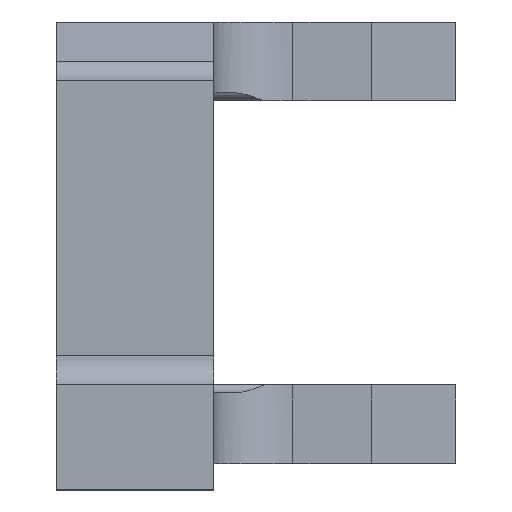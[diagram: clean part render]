
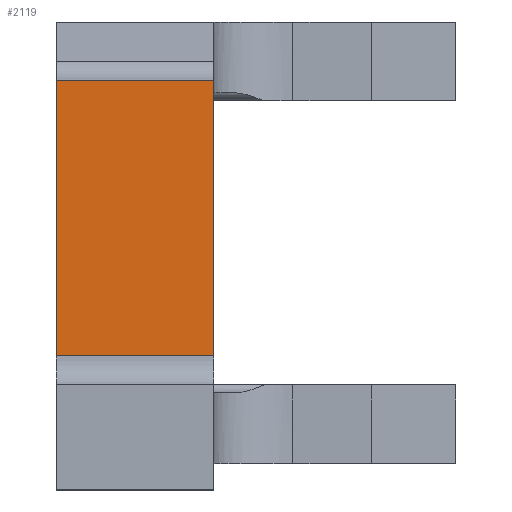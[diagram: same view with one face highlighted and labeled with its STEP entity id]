
A CAD part, left-side view. The second image highlights one B-rep face of the part: STEP entity #2119.
In plain terms, the highlighted planar face has unit normal (-1, 0, 0).
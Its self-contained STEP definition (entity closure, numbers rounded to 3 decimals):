
#1010=CARTESIAN_POINT('',(-76.338,28.375,-8.144));
#1011=VERTEX_POINT('',#1010);
#1019=CARTESIAN_POINT('',(-76.338,28.375,-60.5));
#1020=VERTEX_POINT('',#1019);
#1021=CARTESIAN_POINT('',(-76.338,28.375,-60.5));
#1022=DIRECTION('',(0.0,0.0,1.0));
#1023=VECTOR('',#1022,52.356);
#1024=LINE('',#1021,#1023);
#1025=EDGE_CURVE('',#1020,#1011,#1024,.T.);
#2026=CARTESIAN_POINT('',(-76.338,58.375,-60.5));
#2027=VERTEX_POINT('',#2026);
#2035=CARTESIAN_POINT('',(-76.338,58.375,-8.144));
#2036=VERTEX_POINT('',#2035);
#2037=CARTESIAN_POINT('',(-76.338,58.375,-8.144));
#2038=DIRECTION('',(0.0,0.0,-1.0));
#2039=VECTOR('',#2038,52.356);
#2040=LINE('',#2037,#2039);
#2041=EDGE_CURVE('',#2036,#2027,#2040,.T.);
#2093=CARTESIAN_POINT('',(-76.338,58.375,-60.5));
#2094=DIRECTION('',(0.0,-1.0,0.0));
#2095=VECTOR('',#2094,30.);
#2096=LINE('',#2093,#2095);
#2097=EDGE_CURVE('',#2027,#1020,#2096,.T.);
#2103=CARTESIAN_POINT('',(-76.338,59.875,-60.5));
#2104=DIRECTION('',(1.0,0.0,0.0));
#2105=DIRECTION('',(0.0,0.0,-1.0));
#2106=AXIS2_PLACEMENT_3D('',#2103,#2104,#2105);
#2107=PLANE('',#2106);
#2108=ORIENTED_EDGE('',*,*,#1025,.T.);
#2109=CARTESIAN_POINT('',(-76.338,58.375,-8.144));
#2110=DIRECTION('',(0.0,-1.0,0.0));
#2111=VECTOR('',#2110,30.);
#2112=LINE('',#2109,#2111);
#2113=EDGE_CURVE('',#2036,#1011,#2112,.T.);
#2114=ORIENTED_EDGE('',*,*,#2113,.F.);
#2115=ORIENTED_EDGE('',*,*,#2041,.T.);
#2116=ORIENTED_EDGE('',*,*,#2097,.T.);
#2117=EDGE_LOOP('',(#2108,#2114,#2115,#2116));
#2118=FACE_OUTER_BOUND('',#2117,.T.);
#2119=ADVANCED_FACE('',(#2118),#2107,.F.);
